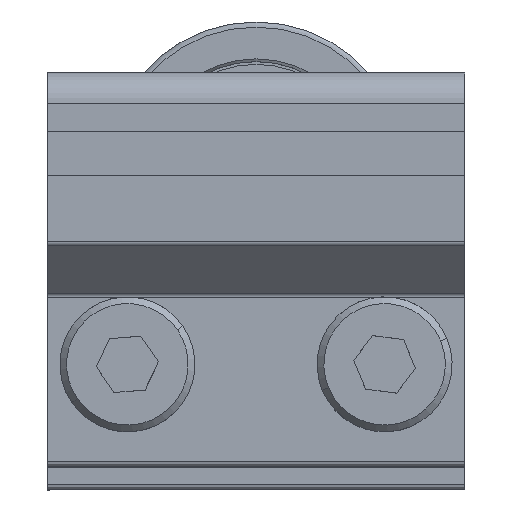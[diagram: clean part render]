
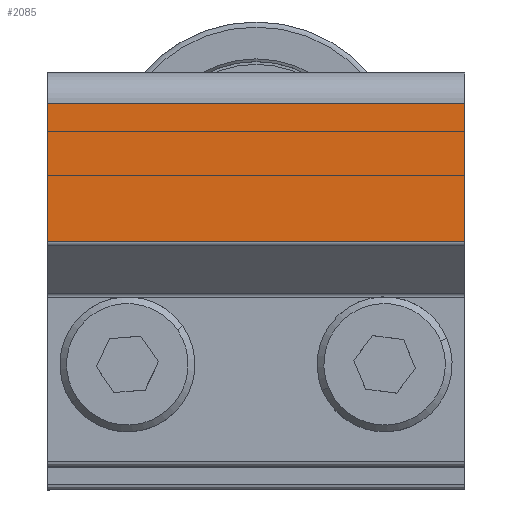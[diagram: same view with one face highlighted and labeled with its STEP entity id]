
A CAD part, top view. The second image highlights one B-rep face of the part: STEP entity #2085.
In plain terms, the highlighted planar face has unit normal (0, 0, 1) as drawn and (1, 0, 0) by its records, which use the part's own axes.
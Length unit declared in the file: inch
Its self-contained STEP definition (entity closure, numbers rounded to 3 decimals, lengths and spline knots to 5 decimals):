
#1579=DIRECTION('',(0.,0.,1.));
#1580=VECTOR('',#1579,1.216);
#1581=CARTESIAN_POINT('',(0.375,0.35921,-0.608));
#1582=LINE('',#1581,#1580);
#1583=DIRECTION('',(0.,-1.,0.));
#1584=VECTOR('',#1583,0.40379);
#1585=CARTESIAN_POINT('',(0.375,0.763,-0.608));
#1586=LINE('',#1585,#1584);
#1664=DIRECTION('',(0.,-1.,0.));
#1665=VECTOR('',#1664,0.40379);
#1666=CARTESIAN_POINT('',(0.375,0.763,0.608));
#1667=LINE('',#1666,#1665);
#1668=DIRECTION('',(0.,0.,-1.));
#1669=VECTOR('',#1668,1.216);
#1670=CARTESIAN_POINT('',(0.375,0.763,0.608));
#1671=LINE('',#1670,#1669);
#1850=CARTESIAN_POINT('',(0.375,0.35921,-0.608));
#1851=CARTESIAN_POINT('',(0.375,0.35921,0.608));
#1852=VERTEX_POINT('',#1850);
#1853=VERTEX_POINT('',#1851);
#1882=CARTESIAN_POINT('',(0.375,0.763,0.608));
#1884=VERTEX_POINT('',#1882);
#1914=CARTESIAN_POINT('',(0.375,0.763,-0.608));
#1915=VERTEX_POINT('',#1914);
#2073=CARTESIAN_POINT('',(0.375,0.763,0.608));
#2074=DIRECTION('',(-1.,0.,0.));
#2075=DIRECTION('',(0.,-1.,0.));
#2076=AXIS2_PLACEMENT_3D('',#2073,#2074,#2075);
#2077=PLANE('',#2076);
#2078=ORIENTED_EDGE('',*,*,#1990,.F.);
#2080=ORIENTED_EDGE('',*,*,#2079,.T.);
#2081=ORIENTED_EDGE('',*,*,#2031,.T.);
#2082=ORIENTED_EDGE('',*,*,#2021,.T.);
#2083=EDGE_LOOP('',(#2078,#2080,#2081,#2082));
#2084=FACE_OUTER_BOUND('',#2083,.F.);
#1990=EDGE_CURVE('',#1884,#1853,#1667,.T.);
#2021=EDGE_CURVE('',#1852,#1853,#1582,.T.);
#2031=EDGE_CURVE('',#1915,#1852,#1586,.T.);
#2079=EDGE_CURVE('',#1884,#1915,#1671,.T.);
#2085=ADVANCED_FACE('',(#2084),#2077,.F.);
